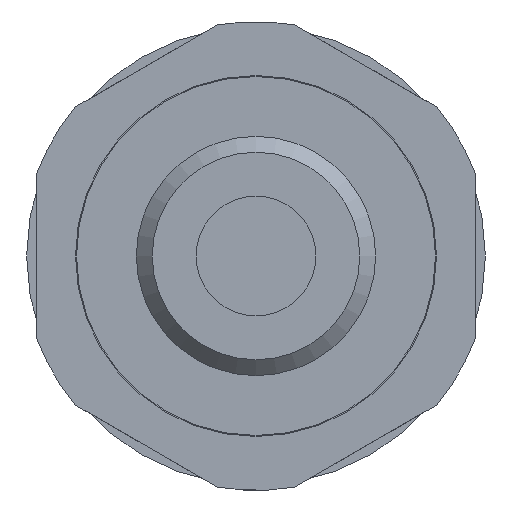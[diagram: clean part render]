
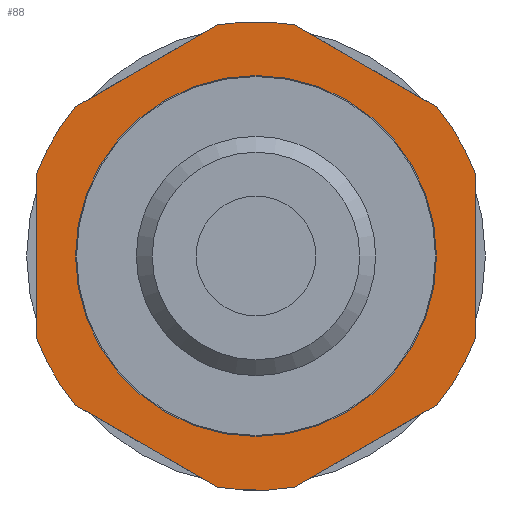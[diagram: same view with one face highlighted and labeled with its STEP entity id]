
A CAD part, front view. The second image highlights one B-rep face of the part: STEP entity #88.
In plain terms, the highlighted planar face has unit normal (0, -1, 0).
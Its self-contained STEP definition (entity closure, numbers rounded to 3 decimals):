
#88 = ADVANCED_FACE( '', ( #144, #145 ), #146, .F. );
#144 = FACE_BOUND( '', #232, .T. );
#145 = FACE_OUTER_BOUND( '', #233, .T. );
#146 = PLANE( '', #234 );
#232 = EDGE_LOOP( '', ( #358 ) );
#233 = EDGE_LOOP( '', ( #359, #360, #361, #362, #363, #364, #365, #366, #367, #368, #369, #370 ) );
#234 = AXIS2_PLACEMENT_3D( '', #371, #372, #373 );
#358 = ORIENTED_EDGE( '', *, *, #524, .F. );
#359 = ORIENTED_EDGE( '', *, *, #525, .T. );
#360 = ORIENTED_EDGE( '', *, *, #526, .T. );
#361 = ORIENTED_EDGE( '', *, *, #527, .T. );
#362 = ORIENTED_EDGE( '', *, *, #502, .T. );
#363 = ORIENTED_EDGE( '', *, *, #528, .T. );
#364 = ORIENTED_EDGE( '', *, *, #506, .T. );
#365 = ORIENTED_EDGE( '', *, *, #529, .T. );
#366 = ORIENTED_EDGE( '', *, *, #510, .T. );
#367 = ORIENTED_EDGE( '', *, *, #530, .T. );
#368 = ORIENTED_EDGE( '', *, *, #531, .T. );
#369 = ORIENTED_EDGE( '', *, *, #532, .T. );
#370 = ORIENTED_EDGE( '', *, *, #514, .T. );
#371 = CARTESIAN_POINT( '', ( 11.75, 2.8, 0. ) );
#372 = DIRECTION( '', ( 0., 1., 0. ) );
#373 = DIRECTION( '', ( 0., 0., 1. ) );
#502 = EDGE_CURVE( '', #561, #559, #562, .T. );
#506 = EDGE_CURVE( '', #569, #567, #570, .T. );
#510 = EDGE_CURVE( '', #577, #575, #578, .T. );
#514 = EDGE_CURVE( '', #585, #583, #586, .T. );
#524 = EDGE_CURVE( '', #604, #604, #605, .T. );
#525 = EDGE_CURVE( '', #583, #606, #607, .T. );
#526 = EDGE_CURVE( '', #606, #608, #609, .T. );
#527 = EDGE_CURVE( '', #608, #561, #610, .T. );
#528 = EDGE_CURVE( '', #559, #569, #611, .T. );
#529 = EDGE_CURVE( '', #567, #577, #612, .T. );
#530 = EDGE_CURVE( '', #575, #613, #614, .T. );
#531 = EDGE_CURVE( '', #613, #615, #616, .T. );
#532 = EDGE_CURVE( '', #615, #585, #617, .T. );
#559 = VERTEX_POINT( '', #663 );
#561 = VERTEX_POINT( '', #666 );
#562 = LINE( '', #667, #668 );
#567 = VERTEX_POINT( '', #678 );
#569 = VERTEX_POINT( '', #681 );
#570 = LINE( '', #682, #683 );
#575 = VERTEX_POINT( '', #694 );
#577 = VERTEX_POINT( '', #697 );
#578 = LINE( '', #698, #699 );
#583 = VERTEX_POINT( '', #709 );
#585 = VERTEX_POINT( '', #712 );
#586 = LINE( '', #713, #714 );
#604 = VERTEX_POINT( '', #733 );
#605 = CIRCLE( '', #734, 9.05 );
#606 = VERTEX_POINT( '', #735 );
#607 = CIRCLE( '', #736, 11.75 );
#608 = VERTEX_POINT( '', #737 );
#609 = LINE( '', #738, #739 );
#610 = CIRCLE( '', #740, 11.75 );
#611 = CIRCLE( '', #741, 11.75 );
#612 = CIRCLE( '', #742, 11.75 );
#613 = VERTEX_POINT( '', #743 );
#614 = CIRCLE( '', #744, 11.75 );
#615 = VERTEX_POINT( '', #745 );
#616 = LINE( '', #746, #747 );
#617 = CIRCLE( '', #748, 11.75 );
#663 = CARTESIAN_POINT( '', ( -1.923, 2.8, -11.592 ) );
#666 = CARTESIAN_POINT( '', ( -9.077, 2.8, -7.461 ) );
#667 = CARTESIAN_POINT( '', ( 3.313, 2.8, -14.614 ) );
#668 = VECTOR( '', #801, 1000. );
#678 = CARTESIAN_POINT( '', ( 9.077, 2.8, -7.461 ) );
#681 = CARTESIAN_POINT( '', ( 1.923, 2.8, -11.592 ) );
#682 = CARTESIAN_POINT( '', ( 14.313, 2.8, -4.438 ) );
#683 = VECTOR( '', #804, 1000. );
#694 = CARTESIAN_POINT( '', ( 11., 2.8, 4.131 ) );
#697 = CARTESIAN_POINT( '', ( 11., 2.8, -4.131 ) );
#698 = CARTESIAN_POINT( '', ( 11., 2.8, 0. ) );
#699 = VECTOR( '', #807, 1000. );
#709 = CARTESIAN_POINT( '', ( -9.077, 2.8, 7.461 ) );
#712 = CARTESIAN_POINT( '', ( -1.923, 2.8, 11.592 ) );
#713 = CARTESIAN_POINT( '', ( 3.313, 2.8, 14.614 ) );
#714 = VECTOR( '', #810, 1000. );
#733 = CARTESIAN_POINT( '', ( 0., 2.8, -9.05 ) );
#734 = AXIS2_PLACEMENT_3D( '', #836, #837, #838 );
#735 = CARTESIAN_POINT( '', ( -11., 2.8, 4.131 ) );
#736 = AXIS2_PLACEMENT_3D( '', #839, #840, #841 );
#737 = CARTESIAN_POINT( '', ( -11., 2.8, -4.131 ) );
#738 = CARTESIAN_POINT( '', ( -11., 2.8, 0. ) );
#739 = VECTOR( '', #842, 1000. );
#740 = AXIS2_PLACEMENT_3D( '', #843, #844, #845 );
#741 = AXIS2_PLACEMENT_3D( '', #846, #847, #848 );
#742 = AXIS2_PLACEMENT_3D( '', #849, #850, #851 );
#743 = CARTESIAN_POINT( '', ( 9.077, 2.8, 7.461 ) );
#744 = AXIS2_PLACEMENT_3D( '', #852, #853, #854 );
#745 = CARTESIAN_POINT( '', ( 1.923, 2.8, 11.592 ) );
#746 = CARTESIAN_POINT( '', ( 14.313, 2.8, 4.438 ) );
#747 = VECTOR( '', #855, 1000. );
#748 = AXIS2_PLACEMENT_3D( '', #856, #857, #858 );
#801 = DIRECTION( '', ( 0.866, 0., -0.5 ) );
#804 = DIRECTION( '', ( 0.866, 0., 0.5 ) );
#807 = DIRECTION( '', ( 0., 0., 1. ) );
#810 = DIRECTION( '', ( -0.866, 0., -0.5 ) );
#836 = CARTESIAN_POINT( '', ( 0., 2.8, 0. ) );
#837 = DIRECTION( '', ( 0., -1., 0. ) );
#838 = DIRECTION( '', ( 0., 0., -1. ) );
#839 = CARTESIAN_POINT( '', ( 0., 2.8, 0. ) );
#840 = DIRECTION( '', ( 0., -1., 0. ) );
#841 = DIRECTION( '', ( 0., 0., -1. ) );
#842 = DIRECTION( '', ( 0., 0., -1. ) );
#843 = CARTESIAN_POINT( '', ( 0., 2.8, 0. ) );
#844 = DIRECTION( '', ( 0., -1., 0. ) );
#845 = DIRECTION( '', ( 0., 0., -1. ) );
#846 = CARTESIAN_POINT( '', ( 0., 2.8, 0. ) );
#847 = DIRECTION( '', ( 0., -1., 0. ) );
#848 = DIRECTION( '', ( 0., 0., -1. ) );
#849 = CARTESIAN_POINT( '', ( 0., 2.8, 0. ) );
#850 = DIRECTION( '', ( 0., -1., 0. ) );
#851 = DIRECTION( '', ( 0., 0., -1. ) );
#852 = CARTESIAN_POINT( '', ( 0., 2.8, 0. ) );
#853 = DIRECTION( '', ( 0., -1., 0. ) );
#854 = DIRECTION( '', ( 0., 0., -1. ) );
#855 = DIRECTION( '', ( -0.866, 0., 0.5 ) );
#856 = CARTESIAN_POINT( '', ( 0., 2.8, 0. ) );
#857 = DIRECTION( '', ( 0., -1., 0. ) );
#858 = DIRECTION( '', ( 0., 0., -1. ) );
